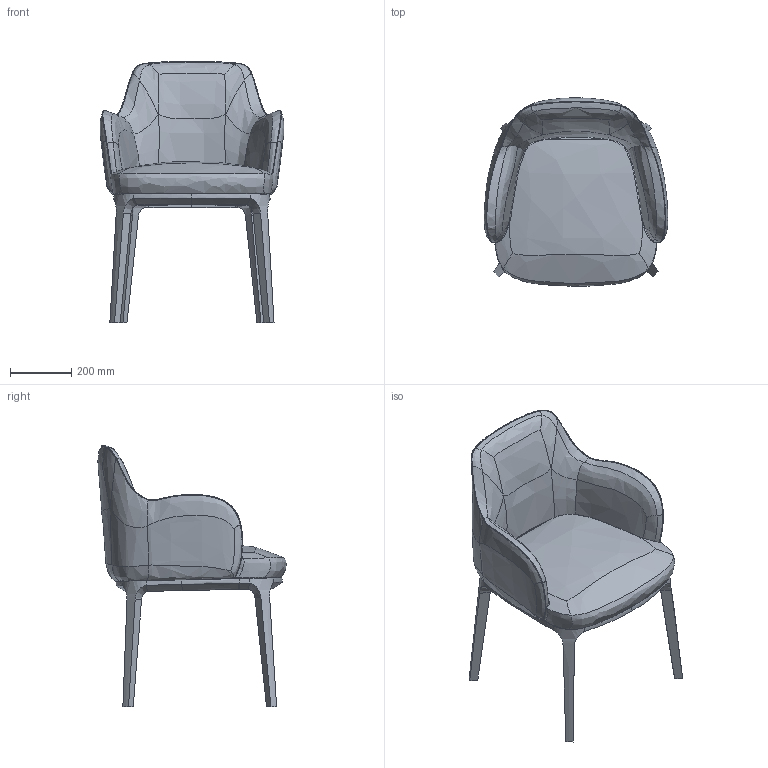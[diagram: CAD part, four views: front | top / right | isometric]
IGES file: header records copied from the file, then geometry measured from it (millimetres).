
Global section: file name: IN-OUT CHAIR- COMPLETA; native system: Autodesk Inventor 2022; preprocessor: unknown; author: simone; date: 20211027.103658; units: millimetre
Bounding box: 597.67 x 613.24 x 850.95 mm (x, y, z)
Volume: 51563571.5 mm3; surface area: 1919268.9 mm2
Topology: 6 solids, 6 shells, 209 faces, 533 edges, 330 vertices
Faces by surface type: bspline 209
